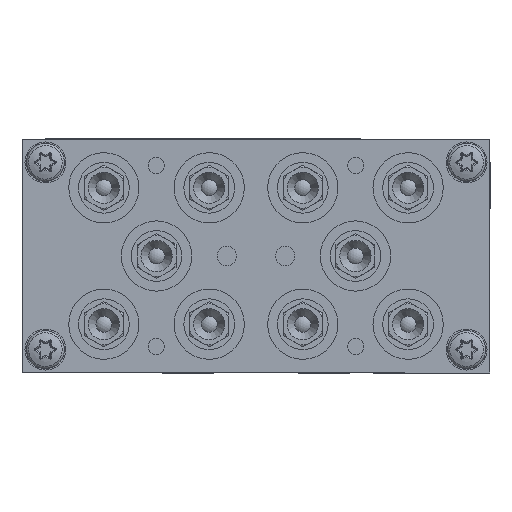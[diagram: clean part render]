
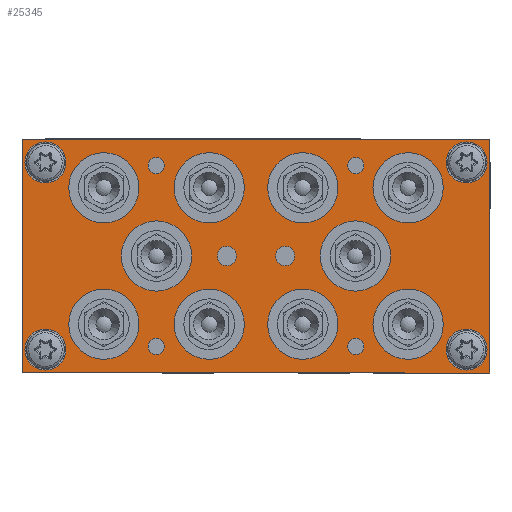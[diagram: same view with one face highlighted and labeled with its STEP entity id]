
A CAD part, left-side view. The second image highlights one B-rep face of the part: STEP entity #25345.
In plain terms, the highlighted planar face has unit normal (-1, 0, 0) as drawn and (0, 0, 1) by its records, which use the part's own axes.
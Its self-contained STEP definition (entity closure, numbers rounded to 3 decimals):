
#2395=LINE('',#60136,#3388);
#2399=LINE('',#60147,#3392);
#2403=LINE('',#60292,#3396);
#2404=LINE('',#60293,#3397);
#3388=VECTOR('',#31191,1000.);
#3392=VECTOR('',#31199,1000.);
#3396=VECTOR('',#31359,1000.);
#3397=VECTOR('',#31360,1000.);
#3782=PLANE('',#27075);
#8642=ORIENTED_EDGE('',*,*,#11338,.F.);
#8643=ORIENTED_EDGE('',*,*,#11339,.F.);
#8644=ORIENTED_EDGE('',*,*,#11340,.F.);
#8645=ORIENTED_EDGE('',*,*,#11341,.F.);
#8646=ORIENTED_EDGE('',*,*,#11342,.F.);
#8647=ORIENTED_EDGE('',*,*,#11343,.F.);
#8648=ORIENTED_EDGE('',*,*,#11344,.T.);
#8649=ORIENTED_EDGE('',*,*,#11345,.T.);
#8650=ORIENTED_EDGE('',*,*,#11346,.T.);
#8651=ORIENTED_EDGE('',*,*,#11347,.T.);
#8652=ORIENTED_EDGE('',*,*,#11348,.T.);
#8653=ORIENTED_EDGE('',*,*,#11349,.T.);
#8654=ORIENTED_EDGE('',*,*,#11350,.T.);
#8655=ORIENTED_EDGE('',*,*,#11280,.T.);
#8656=ORIENTED_EDGE('',*,*,#11351,.T.);
#8657=ORIENTED_EDGE('',*,*,#11285,.T.);
#8658=ORIENTED_EDGE('',*,*,#11352,.T.);
#8659=ORIENTED_EDGE('',*,*,#11353,.T.);
#8660=ORIENTED_EDGE('',*,*,#11354,.T.);
#8661=ORIENTED_EDGE('',*,*,#11355,.T.);
#8662=ORIENTED_EDGE('',*,*,#11356,.T.);
#8663=ORIENTED_EDGE('',*,*,#11357,.T.);
#8664=ORIENTED_EDGE('',*,*,#11358,.T.);
#8665=ORIENTED_EDGE('',*,*,#11359,.T.);
#11280=EDGE_CURVE('',#12914,#12913,#2395,.T.);
#11285=EDGE_CURVE('',#12919,#12918,#2399,.T.);
#11338=EDGE_CURVE('',#12969,#12969,#13765,.T.);
#11339=EDGE_CURVE('',#12970,#12970,#13766,.T.);
#11340=EDGE_CURVE('',#12971,#12971,#13767,.T.);
#11341=EDGE_CURVE('',#12972,#12972,#13768,.T.);
#11342=EDGE_CURVE('',#12973,#12973,#13769,.T.);
#11343=EDGE_CURVE('',#12974,#12974,#13770,.T.);
#11344=EDGE_CURVE('',#12975,#12975,#13771,.T.);
#11345=EDGE_CURVE('',#12976,#12976,#13772,.T.);
#11346=EDGE_CURVE('',#12977,#12977,#13773,.T.);
#11347=EDGE_CURVE('',#12978,#12978,#13774,.T.);
#11348=EDGE_CURVE('',#12979,#12979,#13775,.T.);
#11349=EDGE_CURVE('',#12980,#12980,#13776,.T.);
#11350=EDGE_CURVE('',#12981,#12981,#13777,.T.);
#11351=EDGE_CURVE('',#12913,#12919,#2403,.T.);
#11352=EDGE_CURVE('',#12918,#12914,#2404,.T.);
#11353=EDGE_CURVE('',#12982,#12982,#13778,.T.);
#11354=EDGE_CURVE('',#12983,#12983,#13779,.T.);
#11355=EDGE_CURVE('',#12984,#12984,#13780,.T.);
#11356=EDGE_CURVE('',#12985,#12985,#13781,.T.);
#11357=EDGE_CURVE('',#12986,#12986,#13782,.T.);
#11358=EDGE_CURVE('',#12987,#12987,#13783,.T.);
#11359=EDGE_CURVE('',#12988,#12988,#13784,.T.);
#12913=VERTEX_POINT('',#60135);
#12914=VERTEX_POINT('',#60137);
#12918=VERTEX_POINT('',#60146);
#12919=VERTEX_POINT('',#60148);
#12969=VERTEX_POINT('',#60267);
#12970=VERTEX_POINT('',#60269);
#12971=VERTEX_POINT('',#60271);
#12972=VERTEX_POINT('',#60273);
#12973=VERTEX_POINT('',#60275);
#12974=VERTEX_POINT('',#60277);
#12975=VERTEX_POINT('',#60279);
#12976=VERTEX_POINT('',#60281);
#12977=VERTEX_POINT('',#60283);
#12978=VERTEX_POINT('',#60285);
#12979=VERTEX_POINT('',#60287);
#12980=VERTEX_POINT('',#60289);
#12981=VERTEX_POINT('',#60291);
#12982=VERTEX_POINT('',#60295);
#12983=VERTEX_POINT('',#60297);
#12984=VERTEX_POINT('',#60299);
#12985=VERTEX_POINT('',#60301);
#12986=VERTEX_POINT('',#60303);
#12987=VERTEX_POINT('',#60305);
#12988=VERTEX_POINT('',#60307);
#13765=CIRCLE('',#27076,2.067);
#13766=CIRCLE('',#27077,2.067);
#13767=CIRCLE('',#27078,2.067);
#13768=CIRCLE('',#27079,2.067);
#13769=CIRCLE('',#27080,2.459);
#13770=CIRCLE('',#27081,2.459);
#13771=CIRCLE('',#27082,9.);
#13772=CIRCLE('',#27083,9.);
#13773=CIRCLE('',#27084,9.);
#13774=CIRCLE('',#27085,9.);
#13775=CIRCLE('',#27086,9.);
#13776=CIRCLE('',#27087,5.25);
#13777=CIRCLE('',#27088,5.25);
#13778=CIRCLE('',#27089,5.25);
#13779=CIRCLE('',#27090,9.);
#13780=CIRCLE('',#27091,9.);
#13781=CIRCLE('',#27092,9.);
#13782=CIRCLE('',#27093,9.);
#13783=CIRCLE('',#27094,9.);
#13784=CIRCLE('',#27095,5.25);
#15066=EDGE_LOOP('',(#8642));
#15067=EDGE_LOOP('',(#8643));
#15068=EDGE_LOOP('',(#8644));
#15069=EDGE_LOOP('',(#8645));
#15070=EDGE_LOOP('',(#8646));
#15071=EDGE_LOOP('',(#8647));
#15072=EDGE_LOOP('',(#8648));
#15073=EDGE_LOOP('',(#8649));
#15074=EDGE_LOOP('',(#8650));
#15075=EDGE_LOOP('',(#8651));
#15076=EDGE_LOOP('',(#8652));
#15077=EDGE_LOOP('',(#8653));
#15078=EDGE_LOOP('',(#8654));
#15079=EDGE_LOOP('',(#8655,#8656,#8657,#8658));
#15080=EDGE_LOOP('',(#8659));
#15081=EDGE_LOOP('',(#8660));
#15082=EDGE_LOOP('',(#8661));
#15083=EDGE_LOOP('',(#8662));
#15084=EDGE_LOOP('',(#8663));
#15085=EDGE_LOOP('',(#8664));
#15086=EDGE_LOOP('',(#8665));
#16483=FACE_BOUND('',#15066,.T.);
#16484=FACE_BOUND('',#15067,.T.);
#16485=FACE_BOUND('',#15068,.T.);
#16486=FACE_BOUND('',#15069,.T.);
#16487=FACE_BOUND('',#15070,.T.);
#16488=FACE_BOUND('',#15071,.T.);
#16489=FACE_BOUND('',#15072,.T.);
#16490=FACE_BOUND('',#15073,.T.);
#16491=FACE_BOUND('',#15074,.T.);
#16492=FACE_BOUND('',#15075,.T.);
#16493=FACE_BOUND('',#15076,.T.);
#16494=FACE_BOUND('',#15077,.T.);
#16495=FACE_BOUND('',#15078,.T.);
#16496=FACE_BOUND('',#15079,.T.);
#16497=FACE_BOUND('',#15080,.T.);
#16498=FACE_BOUND('',#15081,.T.);
#16499=FACE_BOUND('',#15082,.T.);
#16500=FACE_BOUND('',#15083,.T.);
#16501=FACE_BOUND('',#15084,.T.);
#16502=FACE_BOUND('',#15085,.T.);
#16503=FACE_BOUND('',#15086,.T.);
#25345=ADVANCED_FACE('',(#16483,#16484,#16485,#16486,#16487,#16488,#16489,
#16490,#16491,#16492,#16493,#16494,#16495,#16496,#16497,#16498,#16499,#16500,
#16501,#16502,#16503),#3782,.T.);
#27075=AXIS2_PLACEMENT_3D('',#60265,#31331,#31332);
#27076=AXIS2_PLACEMENT_3D('',#60266,#31333,#31334);
#27077=AXIS2_PLACEMENT_3D('',#60268,#31335,#31336);
#27078=AXIS2_PLACEMENT_3D('',#60270,#31337,#31338);
#27079=AXIS2_PLACEMENT_3D('',#60272,#31339,#31340);
#27080=AXIS2_PLACEMENT_3D('',#60274,#31341,#31342);
#27081=AXIS2_PLACEMENT_3D('',#60276,#31343,#31344);
#27082=AXIS2_PLACEMENT_3D('',#60278,#31345,#31346);
#27083=AXIS2_PLACEMENT_3D('',#60280,#31347,#31348);
#27084=AXIS2_PLACEMENT_3D('',#60282,#31349,#31350);
#27085=AXIS2_PLACEMENT_3D('',#60284,#31351,#31352);
#27086=AXIS2_PLACEMENT_3D('',#60286,#31353,#31354);
#27087=AXIS2_PLACEMENT_3D('',#60288,#31355,#31356);
#27088=AXIS2_PLACEMENT_3D('',#60290,#31357,#31358);
#27089=AXIS2_PLACEMENT_3D('',#60294,#31361,#31362);
#27090=AXIS2_PLACEMENT_3D('',#60296,#31363,#31364);
#27091=AXIS2_PLACEMENT_3D('',#60298,#31365,#31366);
#27092=AXIS2_PLACEMENT_3D('',#60300,#31367,#31368);
#27093=AXIS2_PLACEMENT_3D('',#60302,#31369,#31370);
#27094=AXIS2_PLACEMENT_3D('',#60304,#31371,#31372);
#27095=AXIS2_PLACEMENT_3D('',#60306,#31373,#31374);
#31191=DIRECTION('',(-1.,0.,0.));
#31199=DIRECTION('',(1.,0.,0.));
#31331=DIRECTION('',(0.,0.,1.));
#31332=DIRECTION('',(1.,0.,0.));
#31333=DIRECTION('',(0.,0.,1.));
#31334=DIRECTION('',(1.,0.,0.));
#31335=DIRECTION('',(0.,0.,1.));
#31336=DIRECTION('',(1.,0.,0.));
#31337=DIRECTION('',(0.,0.,1.));
#31338=DIRECTION('',(1.,0.,0.));
#31339=DIRECTION('',(0.,0.,1.));
#31340=DIRECTION('',(1.,0.,0.));
#31341=DIRECTION('',(0.,0.,1.));
#31342=DIRECTION('',(1.,0.,0.));
#31343=DIRECTION('',(0.,0.,1.));
#31344=DIRECTION('',(1.,0.,0.));
#31345=DIRECTION('',(0.,0.,-1.));
#31346=DIRECTION('',(1.,0.,0.));
#31347=DIRECTION('',(0.,0.,-1.));
#31348=DIRECTION('',(1.,0.,0.));
#31349=DIRECTION('',(0.,0.,-1.));
#31350=DIRECTION('',(1.,0.,0.));
#31351=DIRECTION('',(0.,0.,-1.));
#31352=DIRECTION('',(1.,0.,0.));
#31353=DIRECTION('',(0.,0.,-1.));
#31354=DIRECTION('',(1.,0.,0.));
#31355=DIRECTION('',(0.,0.,-1.));
#31356=DIRECTION('',(1.,0.,0.));
#31357=DIRECTION('',(0.,0.,-1.));
#31358=DIRECTION('',(1.,0.,0.));
#31359=DIRECTION('',(0.,-1.,0.));
#31360=DIRECTION('',(0.,1.,0.));
#31361=DIRECTION('',(0.,0.,-1.));
#31362=DIRECTION('',(1.,0.,0.));
#31363=DIRECTION('',(0.,0.,-1.));
#31364=DIRECTION('',(1.,0.,0.));
#31365=DIRECTION('',(0.,0.,-1.));
#31366=DIRECTION('',(1.,0.,0.));
#31367=DIRECTION('',(0.,0.,-1.));
#31368=DIRECTION('',(1.,0.,0.));
#31369=DIRECTION('',(0.,0.,-1.));
#31370=DIRECTION('',(1.,0.,0.));
#31371=DIRECTION('',(0.,0.,-1.));
#31372=DIRECTION('',(1.,0.,0.));
#31373=DIRECTION('',(0.,0.,-1.));
#31374=DIRECTION('',(1.,0.,0.));
#60135=CARTESIAN_POINT('',(-60.,30.,15.));
#60136=CARTESIAN_POINT('',(60.,30.,15.));
#60137=CARTESIAN_POINT('',(60.,30.,15.));
#60146=CARTESIAN_POINT('',(60.,-30.,15.));
#60147=CARTESIAN_POINT('',(-60.,-30.,15.));
#60148=CARTESIAN_POINT('',(-60.,-30.,15.));
#60265=CARTESIAN_POINT('',(-60.,30.,15.));
#60266=CARTESIAN_POINT('',(25.6,23.2,15.));
#60267=CARTESIAN_POINT('',(27.667,23.2,15.));
#60268=CARTESIAN_POINT('',(-25.6,23.2,15.));
#60269=CARTESIAN_POINT('',(-23.533,23.2,15.));
#60270=CARTESIAN_POINT('',(-25.6,-23.2,15.));
#60271=CARTESIAN_POINT('',(-23.533,-23.2,15.));
#60272=CARTESIAN_POINT('',(25.6,-23.2,15.));
#60273=CARTESIAN_POINT('',(27.667,-23.2,15.));
#60274=CARTESIAN_POINT('',(7.5,0.,15.));
#60275=CARTESIAN_POINT('',(9.959,0.,15.));
#60276=CARTESIAN_POINT('',(-7.5,0.,15.));
#60277=CARTESIAN_POINT('',(-5.041,0.,15.));
#60278=CARTESIAN_POINT('',(25.5,0.,15.));
#60279=CARTESIAN_POINT('',(34.5,0.,15.));
#60280=CARTESIAN_POINT('',(39.,17.5,15.));
#60281=CARTESIAN_POINT('',(48.,17.5,15.));
#60282=CARTESIAN_POINT('',(-39.,-17.5,15.));
#60283=CARTESIAN_POINT('',(-30.,-17.5,15.));
#60284=CARTESIAN_POINT('',(-12.,-17.5,15.));
#60285=CARTESIAN_POINT('',(-3.,-17.5,15.));
#60286=CARTESIAN_POINT('',(12.,17.5,15.));
#60287=CARTESIAN_POINT('',(21.,17.5,15.));
#60288=CARTESIAN_POINT('',(-54.,-24.,15.));
#60289=CARTESIAN_POINT('',(-48.75,-24.,15.));
#60290=CARTESIAN_POINT('',(54.,24.,15.));
#60291=CARTESIAN_POINT('',(59.25,24.,15.));
#60292=CARTESIAN_POINT('',(-60.,30.,15.));
#60293=CARTESIAN_POINT('',(60.,-30.,15.));
#60294=CARTESIAN_POINT('',(54.,-24.,15.));
#60295=CARTESIAN_POINT('',(59.25,-24.,15.));
#60296=CARTESIAN_POINT('',(-12.,17.5,15.));
#60297=CARTESIAN_POINT('',(-3.,17.5,15.));
#60298=CARTESIAN_POINT('',(12.,-17.5,15.));
#60299=CARTESIAN_POINT('',(21.,-17.5,15.));
#60300=CARTESIAN_POINT('',(-39.,17.5,15.));
#60301=CARTESIAN_POINT('',(-30.,17.5,15.));
#60302=CARTESIAN_POINT('',(39.,-17.5,15.));
#60303=CARTESIAN_POINT('',(48.,-17.5,15.));
#60304=CARTESIAN_POINT('',(-25.5,0.,15.));
#60305=CARTESIAN_POINT('',(-16.5,0.,15.));
#60306=CARTESIAN_POINT('',(-54.,24.,15.));
#60307=CARTESIAN_POINT('',(-48.75,24.,15.));
